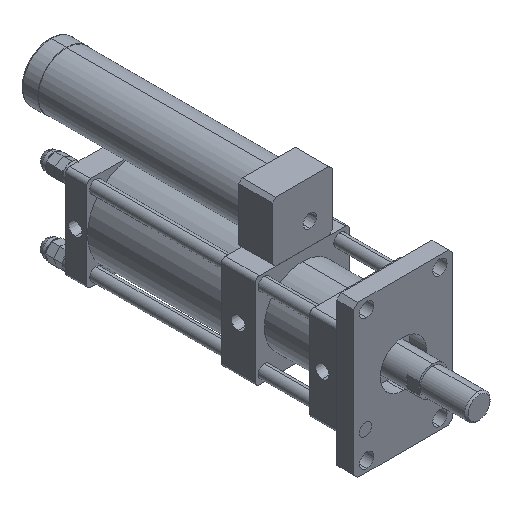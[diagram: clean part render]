
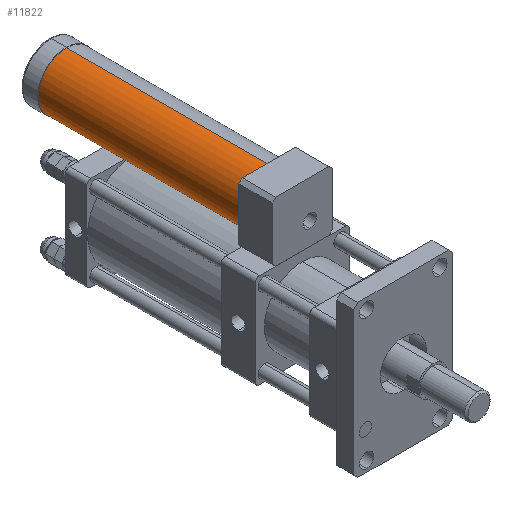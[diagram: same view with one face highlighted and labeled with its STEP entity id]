
A CAD part, isometric view. The second image highlights one B-rep face of the part: STEP entity #11822.
In plain terms, the highlighted cylindrical face has radius 33.5 mm (diameter 67 mm), a partial arc.
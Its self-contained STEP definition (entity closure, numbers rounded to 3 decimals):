
#201 = EDGE_CURVE ( 'NONE', #11364, #5349, #11694, .T. ) ;
#241 = DIRECTION ( 'NONE',  ( 0., -1., 0. ) ) ;
#311 = EDGE_CURVE ( 'NONE', #11364, #7079, #7936, .T. ) ;
#450 = CARTESIAN_POINT ( 'NONE',  ( 0., 345., 58. ) ) ;
#694 = EDGE_CURVE ( 'NONE', #7079, #5865, #4547, .T. ) ;
#740 = DIRECTION ( 'NONE',  ( 0., 0., 1. ) ) ;
#786 = CARTESIAN_POINT ( 'NONE',  ( 0., 105., 91.5 ) ) ;
#823 = DIRECTION ( 'NONE',  ( 0., 1., 0. ) ) ;
#1252 = EDGE_CURVE ( 'NONE', #5349, #5865, #10531, .T. ) ;
#1638 = ORIENTED_EDGE ( 'NONE', *, *, #1252, .T. ) ;
#2933 = CARTESIAN_POINT ( 'NONE',  ( 0., 105., 125. ) ) ;
#4403 = ORIENTED_EDGE ( 'NONE', *, *, #201, .T. ) ;
#4488 = AXIS2_PLACEMENT_3D ( 'NONE', #786, #823, #740 ) ;
#4547 = LINE ( 'NONE', #6629, #11972 ) ;
#4652 = CARTESIAN_POINT ( 'NONE',  ( 0., 105., 58. ) ) ;
#4725 = ORIENTED_EDGE ( 'NONE', *, *, #311, .F. ) ;
#5349 = VERTEX_POINT ( 'NONE', #4652 ) ;
#5351 = DIRECTION ( 'NONE',  ( 0., -1., 0. ) ) ;
#5774 = DIRECTION ( 'NONE',  ( 0., 0., -1. ) ) ;
#5865 = VERTEX_POINT ( 'NONE', #2933 ) ;
#5891 = CARTESIAN_POINT ( 'NONE',  ( 0., 345., 58. ) ) ;
#6147 = FACE_OUTER_BOUND ( 'NONE', #7903, .T. ) ;
#6264 = VECTOR ( 'NONE', #241, 1000. ) ;
#6629 = CARTESIAN_POINT ( 'NONE',  ( 0., 345., 125. ) ) ;
#7079 = VERTEX_POINT ( 'NONE', #9001 ) ;
#7744 = AXIS2_PLACEMENT_3D ( 'NONE', #8458, #8408, #8360 ) ;
#7903 = EDGE_LOOP ( 'NONE', ( #10492, #4725, #4403, #1638 ) ) ;
#7936 = CIRCLE ( 'NONE', #7744, 33.5 ) ;
#8360 = DIRECTION ( 'NONE',  ( 0., 0., 1. ) ) ;
#8408 = DIRECTION ( 'NONE',  ( 0., 1., 0. ) ) ;
#8458 = CARTESIAN_POINT ( 'NONE',  ( 0., 345., 91.5 ) ) ;
#9001 = CARTESIAN_POINT ( 'NONE',  ( 0., 345., 125. ) ) ;
#9161 = AXIS2_PLACEMENT_3D ( 'NONE', #10623, #12538, #5774 ) ;
#10492 = ORIENTED_EDGE ( 'NONE', *, *, #694, .F. ) ;
#10531 = CIRCLE ( 'NONE', #4488, 33.5 ) ;
#10623 = CARTESIAN_POINT ( 'NONE',  ( 0., 345., 91.5 ) ) ;
#10976 = CYLINDRICAL_SURFACE ( 'NONE', #9161, 33.5 ) ;
#11364 = VERTEX_POINT ( 'NONE', #5891 ) ;
#11694 = LINE ( 'NONE', #450, #6264 ) ;
#11822 = ADVANCED_FACE ( 'NONE', ( #6147 ), #10976, .T. ) ;
#11972 = VECTOR ( 'NONE', #5351, 1000. ) ;
#12538 = DIRECTION ( 'NONE',  ( 0., -1., 0. ) ) ;
